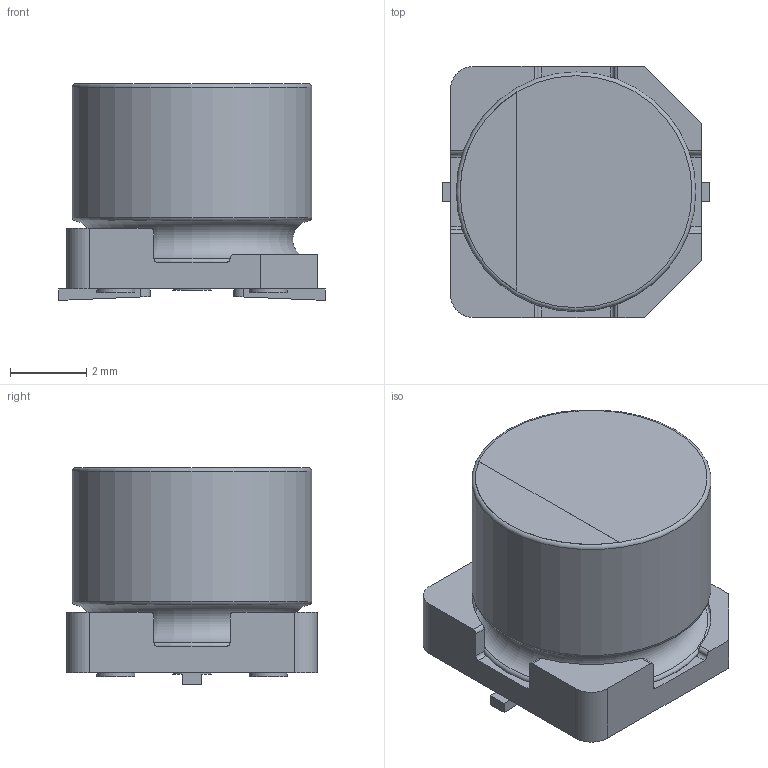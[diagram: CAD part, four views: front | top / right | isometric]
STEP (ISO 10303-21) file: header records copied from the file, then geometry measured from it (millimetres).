
FILE_DESCRIPTION(/* description */ (''),/* implementation_level */ '2;1');
FILE_NAME(/* name */ '6.3x5.7_Chip.stp',/* time_stamp */ '2017-09-04T17:03:29+09:00',/* author */ (''),/* organization */ (''),/* preprocessor_version */ 'ST-DEVELOPER v16',/* originating_system */ 'SIEMENS PLM Software NX 11.0',/* authorisation */ '');
FILE_SCHEMA (('AUTOMOTIVE_DESIGN { 1 0 10303 214 3 1 1 1 }'));
Length unit declared in the file: millimetre
Products named in the file (1): 6.3x5.7_Chip_0
Bounding box: 7 x 6.6 x 5.7 mm (x, y, z)
Volume: 174.2 mm3; surface area: 297.1 mm2
Topology: 5 solids, 5 shells, 74 faces, 175 edges, 116 vertices
Faces by surface type: plane 36, cylinder 34, torus 4
Full cylindrical faces by diameter (mm): 1 x5, 6.3 x2
Entity records: 2304 total; most frequent: CARTESIAN_POINT 485, DIRECTION 350, ORIENTED_EDGE 322, EDGE_CURVE 161, AXIS2_PLACEMENT_3D 130, VERTEX_POINT 113, EDGE_LOOP 90, LINE 90
